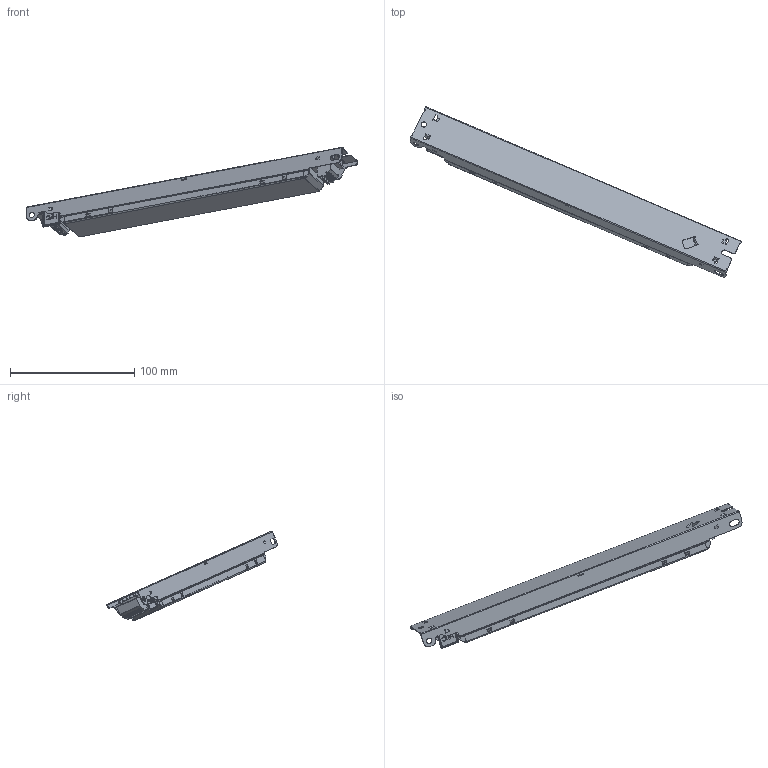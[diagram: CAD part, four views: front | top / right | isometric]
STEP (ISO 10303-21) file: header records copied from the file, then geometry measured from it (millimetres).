
FILE_DESCRIPTION (( 'STEP AP203' ), '1' );
FILE_NAME ('LL50SE-CC-350-1400.STEP', '2019-08-20T05:53:35', ( '' ), ( '' ), 'SwSTEP 2.0', 'SolidWorks 2014', '' );
FILE_SCHEMA (( 'CONFIG_CONTROL_DESIGN' ));
Products named in the file (1): LL50SE-CC-350-1400
Bounding box: 266.45 x 136.88 x 72 mm (x, y, z)
Volume: 29562.8 mm3; surface area: 71680.9 mm2
Topology: 3 solids, 3 shells, 1330 faces, 3589 edges, 2274 vertices
Faces by surface type: plane 856, cylinder 368, bspline 39, torus 35, cone 18, sphere 14
Entity records: 42371 total; most frequent: CARTESIAN_POINT 8973, ORIENTED_EDGE 7168, DIRECTION 6630, EDGE_CURVE 3584, VECTOR 2542, LINE 2542, VERTEX_POINT 2271, AXIS2_PLACEMENT_3D 2044
